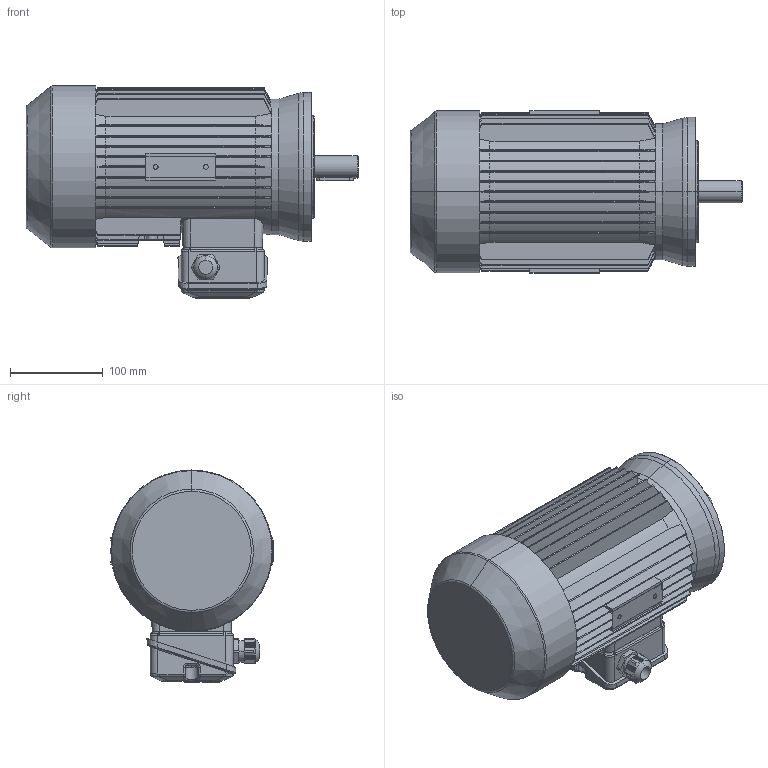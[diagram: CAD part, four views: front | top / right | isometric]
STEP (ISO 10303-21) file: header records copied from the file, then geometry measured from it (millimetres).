
FILE_DESCRIPTION (( 'STEP AP214' ), '1' );
FILE_NAME ('MAP90L6A IM3641-B FT130.STEP', '2022-02-07T14:22:08', ( '' ), ( '' ), 'SwSTEP 2.0', 'SolidWorks 2021', '' );
FILE_SCHEMA (( 'AUTOMOTIVE_DESIGN' ));
Length unit declared in the file: millimetre
Products named in the file (1): MAP90L6A IM3641-B FT130
Bounding box: 357 x 174.5 x 228 mm (x, y, z)
Volume: 6086574.4 mm3; surface area: 427443.5 mm2
Topology: 2 solids, 8 shells, 1062 faces, 2823 edges, 1818 vertices
Faces by surface type: plane 511, cylinder 252, cone 150, bspline 108, torus 39, sphere 2
Entity records: 39887 total; most frequent: CARTESIAN_POINT 15106, ORIENTED_EDGE 5642, DIRECTION 4518, EDGE_CURVE 2821, VERTEX_POINT 1818, AXIS2_PLACEMENT_3D 1546, LINE 1426, VECTOR 1426
